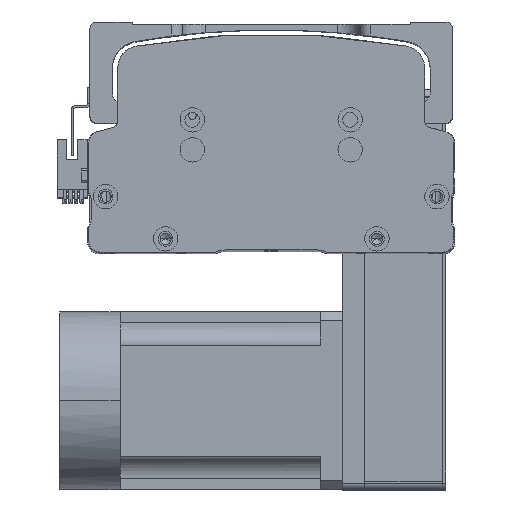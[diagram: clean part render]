
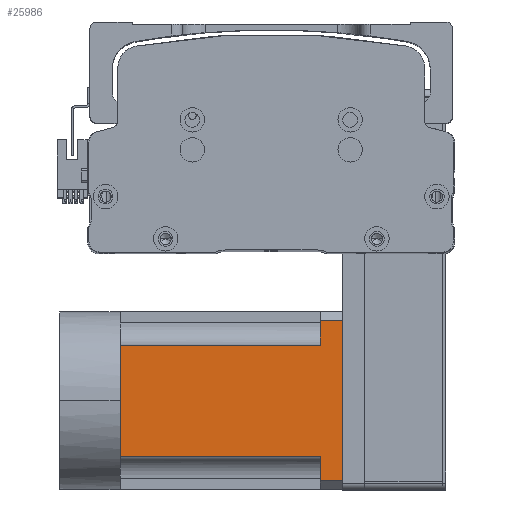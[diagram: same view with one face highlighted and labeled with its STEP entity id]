
A CAD part, top view. The second image highlights one B-rep face of the part: STEP entity #25986.
In plain terms, the highlighted planar face has unit normal (0, 0, 1) as drawn and (0, 0, -1) by its records, which use the part's own axes.
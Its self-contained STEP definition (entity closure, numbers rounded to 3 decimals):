
#509 = EDGE_CURVE ( 'NONE', #23096, #55350, #54398, .T. ) ;
#2186 = EDGE_CURVE ( 'NONE', #17862, #42366, #34773, .T. ) ;
#3795 = CARTESIAN_POINT ( 'NONE',  ( 25., 0., -40. ) ) ;
#4222 = EDGE_CURVE ( 'NONE', #42366, #23096, #10578, .T. ) ;
#4351 = EDGE_CURVE ( 'NONE', #34550, #53406, #6238, .T. ) ;
#4851 = ORIENTED_EDGE ( 'NONE', *, *, #509, .T. ) ;
#5849 = CARTESIAN_POINT ( 'NONE',  ( -40., 100., -40. ) ) ;
#5913 = CARTESIAN_POINT ( 'NONE',  ( -25., 90., -40. ) ) ;
#6030 = EDGE_CURVE ( 'NONE', #34550, #27205, #58067, .T. ) ;
#6238 = LINE ( 'NONE', #5849, #41638 ) ;
#8711 = CARTESIAN_POINT ( 'NONE',  ( -40., 90., -40. ) ) ;
#8927 = CARTESIAN_POINT ( 'NONE',  ( 36., 100., -40. ) ) ;
#10187 = DIRECTION ( 'NONE',  ( 0., -1., 0. ) ) ;
#10578 = LINE ( 'NONE', #38330, #35192 ) ;
#10911 = VECTOR ( 'NONE', #49288, 1000. ) ;
#12322 = ORIENTED_EDGE ( 'NONE', *, *, #54325, .T. ) ;
#14923 = DIRECTION ( 'NONE',  ( -1., 0., 0. ) ) ;
#16208 = DIRECTION ( 'NONE',  ( 0., 0., -1. ) ) ;
#17690 = EDGE_CURVE ( 'NONE', #55350, #53406, #36064, .T. ) ;
#17862 = VERTEX_POINT ( 'NONE', #45932 ) ;
#18132 = ORIENTED_EDGE ( 'NONE', *, *, #17690, .T. ) ;
#19879 = ORIENTED_EDGE ( 'NONE', *, *, #27880, .T. ) ;
#19987 = FACE_OUTER_BOUND ( 'NONE', #33818, .T. ) ;
#20349 = CARTESIAN_POINT ( 'NONE',  ( -36., -27., -40. ) ) ;
#21621 = DIRECTION ( 'NONE',  ( -1., 0., 0. ) ) ;
#22665 = VECTOR ( 'NONE', #10187, 1000. ) ;
#23075 = CARTESIAN_POINT ( 'NONE',  ( -25., 0., -40. ) ) ;
#23096 = VERTEX_POINT ( 'NONE', #5913 ) ;
#24187 = ORIENTED_EDGE ( 'NONE', *, *, #32522, .T. ) ;
#25052 = ORIENTED_EDGE ( 'NONE', *, *, #6030, .T. ) ;
#25986 = ADVANCED_FACE ( 'NONE', ( #19987 ), #39274, .T. ) ;
#26462 = CARTESIAN_POINT ( 'NONE',  ( -40., 90., -40. ) ) ;
#26570 = CARTESIAN_POINT ( 'NONE',  ( 25., 90., -40. ) ) ;
#27205 = VERTEX_POINT ( 'NONE', #39974 ) ;
#27317 = DIRECTION ( 'NONE',  ( -1., 0., 0. ) ) ;
#27838 = CARTESIAN_POINT ( 'NONE',  ( -36., 100., -40. ) ) ;
#27880 = EDGE_CURVE ( 'NONE', #43486, #56001, #56337, .T. ) ;
#28388 = VECTOR ( 'NONE', #27317, 1000. ) ;
#32522 = EDGE_CURVE ( 'NONE', #27205, #43486, #58616, .T. ) ;
#33818 = EDGE_LOOP ( 'NONE', ( #48103, #25052, #24187, #19879, #12322, #46457, #53746, #4851, #18132 ) ) ;
#33949 = AXIS2_PLACEMENT_3D ( 'NONE', #34442, #16208, #48554 ) ;
#34442 = CARTESIAN_POINT ( 'NONE',  ( -40., -27., -40. ) ) ;
#34550 = VERTEX_POINT ( 'NONE', #8927 ) ;
#34595 = CARTESIAN_POINT ( 'NONE',  ( -36., 90., -40. ) ) ;
#34773 = LINE ( 'NONE', #35767, #45576 ) ;
#35192 = VECTOR ( 'NONE', #47432, 1000. ) ;
#35221 = CARTESIAN_POINT ( 'NONE',  ( -40., 0., -40. ) ) ;
#35767 = CARTESIAN_POINT ( 'NONE',  ( -40., 0., -40. ) ) ;
#36001 = LINE ( 'NONE', #35221, #57653 ) ;
#36064 = LINE ( 'NONE', #20349, #43989 ) ;
#38330 = CARTESIAN_POINT ( 'NONE',  ( -25., -27., -40. ) ) ;
#39274 = PLANE ( 'NONE',  #33949 ) ;
#39974 = CARTESIAN_POINT ( 'NONE',  ( 36., 90., -40. ) ) ;
#41145 = VECTOR ( 'NONE', #59652, 1000. ) ;
#41638 = VECTOR ( 'NONE', #14923, 1000. ) ;
#42366 = VERTEX_POINT ( 'NONE', #23075 ) ;
#42516 = CARTESIAN_POINT ( 'NONE',  ( 36., -27., -40. ) ) ;
#43486 = VERTEX_POINT ( 'NONE', #26570 ) ;
#43989 = VECTOR ( 'NONE', #52630, 1000. ) ;
#45576 = VECTOR ( 'NONE', #21621, 1000. ) ;
#45932 = CARTESIAN_POINT ( 'NONE',  ( 0., 0., -40. ) ) ;
#46457 = ORIENTED_EDGE ( 'NONE', *, *, #2186, .T. ) ;
#47432 = DIRECTION ( 'NONE',  ( 0., 1., 0. ) ) ;
#48103 = ORIENTED_EDGE ( 'NONE', *, *, #4351, .F. ) ;
#48554 = DIRECTION ( 'NONE',  ( -1., 0., 0. ) ) ;
#48747 = DIRECTION ( 'NONE',  ( -1., 0., 0. ) ) ;
#49288 = DIRECTION ( 'NONE',  ( -1., 0., 0. ) ) ;
#52630 = DIRECTION ( 'NONE',  ( 0., 1., 0. ) ) ;
#53406 = VERTEX_POINT ( 'NONE', #27838 ) ;
#53746 = ORIENTED_EDGE ( 'NONE', *, *, #4222, .T. ) ;
#54325 = EDGE_CURVE ( 'NONE', #56001, #17862, #36001, .T. ) ;
#54398 = LINE ( 'NONE', #8711, #28388 ) ;
#55032 = CARTESIAN_POINT ( 'NONE',  ( 25., -27., -40. ) ) ;
#55350 = VERTEX_POINT ( 'NONE', #34595 ) ;
#56001 = VERTEX_POINT ( 'NONE', #3795 ) ;
#56337 = LINE ( 'NONE', #55032, #41145 ) ;
#57653 = VECTOR ( 'NONE', #48747, 1000. ) ;
#58067 = LINE ( 'NONE', #42516, #22665 ) ;
#58616 = LINE ( 'NONE', #26462, #10911 ) ;
#59652 = DIRECTION ( 'NONE',  ( 0., -1., 0. ) ) ;
